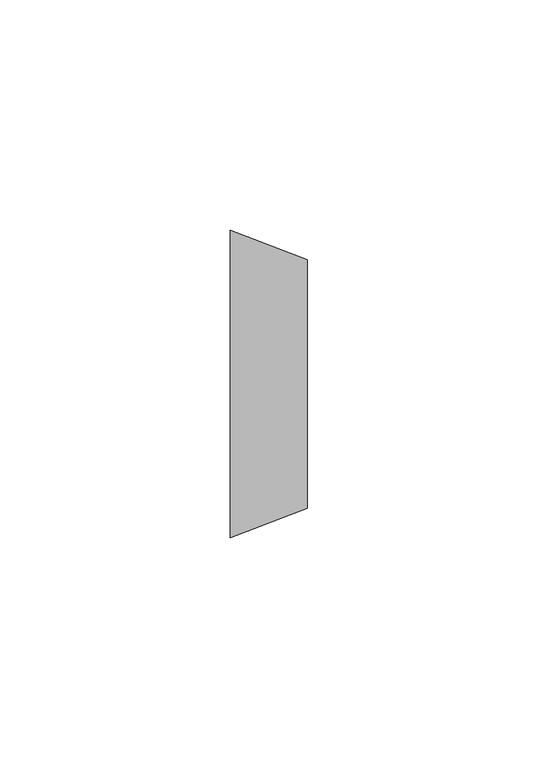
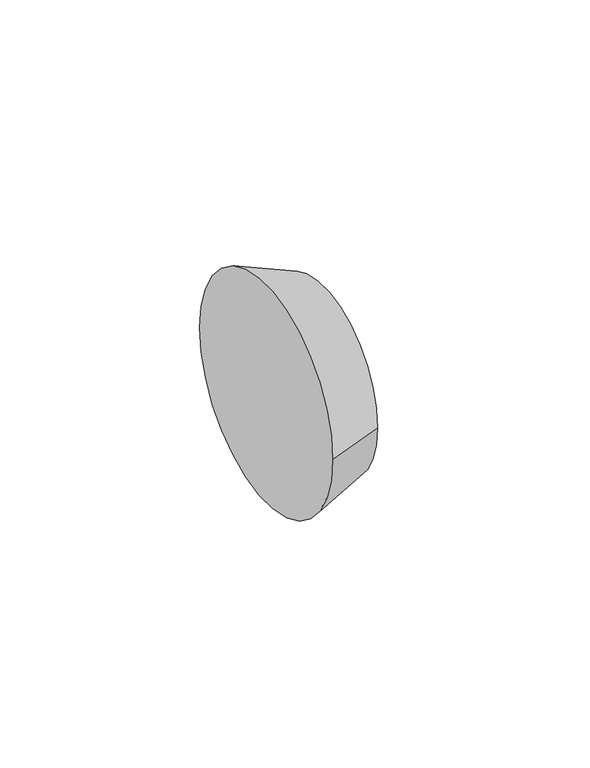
"""IFC4 building model written with IfcOpenShell, lengths in millimetres: pipe fitting geometry, M_Transición - Genérica : Estándar."""

from ifc_helpers import new_model, si_unit, frame, origin, place, context, project, spatial, polyline, circle_curve, source, transform, mapped, element, save
from ifc_brep_helpers import plane_surface, revolved_surface, advanced_brep


def pipe_fitting_88bb2e47(model_context):
    return source(origin(), model_context, "Body", "AdvancedBrep", [
        advanced_brep(
        [(16.66875, -26.9875, 0.0), (16.66875, 26.9875, 0.0), (0.0, -33.3375, 0.0), (0.0, 33.3375, 0.0)],
        [
            (0, 1, circle_curve(frame((16.66875, 0.0, 0.0), z_axis=(1.0, 0.0, 0.0), x_axis=(0.0, -1.0, 0.0)), 26.9875)),
            (1, 0, circle_curve(frame((16.66875, 0.0, 0.0), z_axis=(1.0, 0.0, 0.0), x_axis=(0.0, 1.0, 0.0)), 26.9875)),
            (2, 3, circle_curve(frame((0.0, 0.0, 0.0), z_axis=(-1.0, 0.0, 0.0), x_axis=(0.0, 1.0, 0.0)), 33.3375)),
            (3, 2, circle_curve(frame((0.0, 0.0, 0.0), z_axis=(-1.0, 0.0, 0.0), x_axis=(0.0, -1.0, 0.0)), 33.3375)),
            (3, 1),
            (0, 2),
        ],
        [
            plane_surface(frame((16.66875, 0.0, 0.0), z_axis=(1.0, 0.0, 0.0), x_axis=(0.0, 0.0, -1.0))),
            plane_surface(frame((0.0, 0.0, 0.0), z_axis=(-1.0, 0.0, 0.0), x_axis=(0.0, 0.0, -1.0))),
            revolved_surface(polyline([(16.668750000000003, -26.9875, 0.0), (0.0, -33.3375, 0.0)]), (87.5109375, 0.0, 0.0), (-1.0, 0.0, 0.0)),
            revolved_surface(polyline([(16.668750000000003, 26.9875, 0.0), (0.0, 33.3375, 0.0)]), (87.5109375, 0.0, 0.0), (-1.0, 0.0, 0.0)),
        ],
        [
            (0, [[1, 2]]),
            (1, [[3, 4]]),
            (2, [[-4, 5, -1, 6]]),
            (3, [[-3, -6, -2, -5]]),
        ],
    ),
    ])


if __name__ == "__main__":
    model = new_model("IFC4")
    model_context = context("Model", 3, world=origin())
    ifc_project = project(units=[si_unit("LENGTHUNIT", "METRE", prefix="MILLI")], contexts=[model_context])
    site = spatial("IfcSite", under=ifc_project)
    building = spatial("IfcBuilding", under=site)
    placement = place(None, origin())
    pipe_fitting_shape = pipe_fitting_88bb2e47(model_context)
    element("IfcPipeFitting", 1, ObjectType="M_Transición - Genérica : Estándar", at=placement, inside=building, context=model_context, shape_type="MappedRepresentation", body=[
        mapped(pipe_fitting_shape, transform((0.0, 0.0, 0.0), x_axis=(1.0, 0.0, 0.0), y_axis=(0.0, 1.0, 0.0), z_axis=(0.0, 0.0, 1.0))),
    ])
    save(model, "model.ifc")
